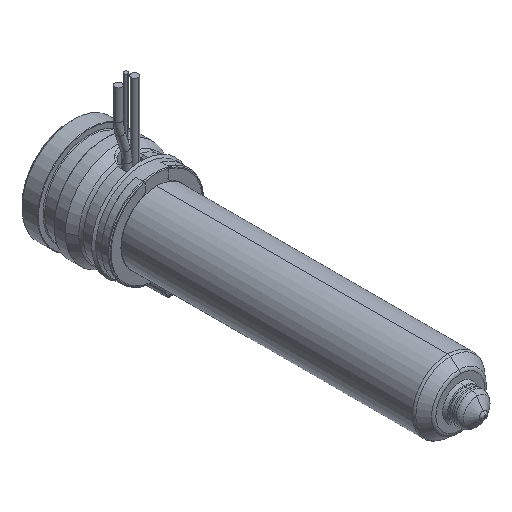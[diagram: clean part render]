
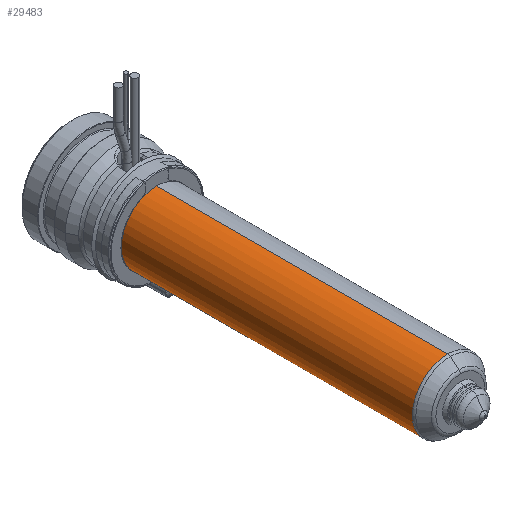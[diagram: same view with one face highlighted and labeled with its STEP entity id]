
A CAD part, isometric view. The second image highlights one B-rep face of the part: STEP entity #29483.
In plain terms, the highlighted cylindrical face has radius 9 mm (diameter 18 mm), a partial arc.
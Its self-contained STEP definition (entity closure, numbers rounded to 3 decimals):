
#28932=CARTESIAN_POINT('',(0.,-95.836,0.));
#28933=DIRECTION('',(0.,-1.,0.));
#28934=DIRECTION('',(0.,0.,1.));
#28935=AXIS2_PLACEMENT_3D('',#28932,#28933,#28934);
#28940=CARTESIAN_POINT('',(0.,-22.,0.));
#28941=DIRECTION('',(0.,-1.,0.));
#28942=DIRECTION('',(0.,0.,1.));
#28943=AXIS2_PLACEMENT_3D('',#28940,#28941,#28942);
#28948=DIRECTION('',(0.,-1.,0.));
#28949=VECTOR('',#28948,73.836);
#28950=CARTESIAN_POINT('',(0.,-22.,9.));
#28951=LINE('',#28950,#28949);
#28963=DIRECTION('',(0.,-1.,0.));
#28964=VECTOR('',#28963,73.836);
#28965=CARTESIAN_POINT('',(0.,-22.,-9.));
#28966=LINE('',#28965,#28964);
#29164=CARTESIAN_POINT('',(0.,-22.,9.));
#29165=CARTESIAN_POINT('',(0.,-95.836,9.));
#29166=VERTEX_POINT('',#29164);
#29167=VERTEX_POINT('',#29165);
#29186=CARTESIAN_POINT('',(0.,-22.,-9.));
#29187=CARTESIAN_POINT('',(0.,-95.836,-9.));
#29188=VERTEX_POINT('',#29186);
#29189=VERTEX_POINT('',#29187);
#29469=CARTESIAN_POINT('',(0.,-13.625,0.));
#29470=DIRECTION('',(0.,-1.,0.));
#29471=DIRECTION('',(0.,0.,1.));
#29472=AXIS2_PLACEMENT_3D('',#29469,#29470,#29471);
#29473=CYLINDRICAL_SURFACE('',#29472,9.);
#29475=ORIENTED_EDGE('',*,*,#29474,.T.);
#29476=ORIENTED_EDGE('',*,*,#29464,.T.);
#29478=ORIENTED_EDGE('',*,*,#29477,.F.);
#29480=ORIENTED_EDGE('',*,*,#29479,.F.);
#29481=EDGE_LOOP('',(#29475,#29476,#29478,#29480));
#29482=FACE_OUTER_BOUND('',#29481,.F.);
#29483=ADVANCED_FACE('',(#29482),#29473,.T.);
#28936=CIRCLE('',#28935,9.);
#28944=CIRCLE('',#28943,9.);
#29464=EDGE_CURVE('',#29167,#29189,#28936,.T.);
#29474=EDGE_CURVE('',#29166,#29167,#28951,.T.);
#29477=EDGE_CURVE('',#29188,#29189,#28966,.T.);
#29479=EDGE_CURVE('',#29166,#29188,#28944,.T.);
